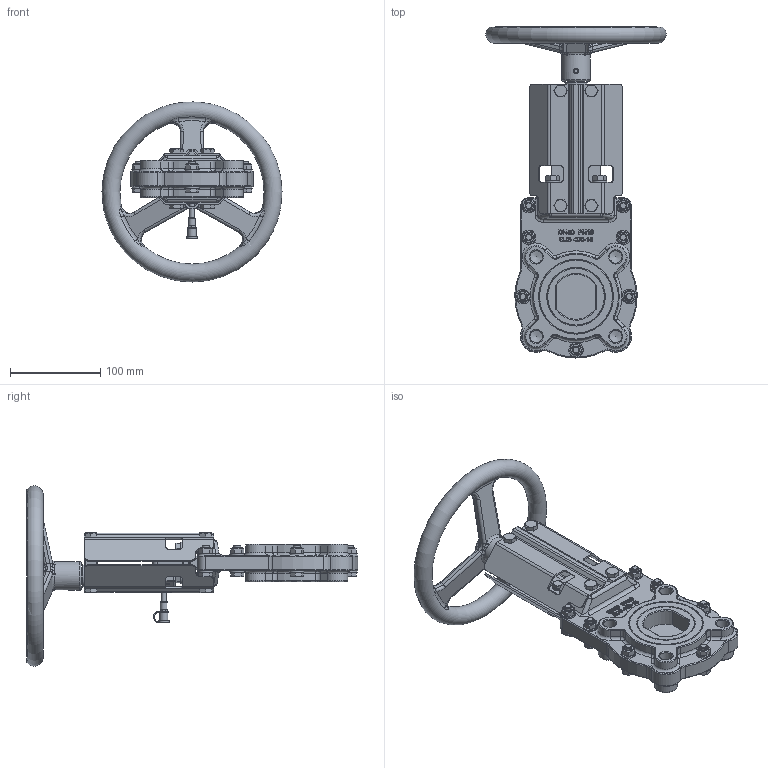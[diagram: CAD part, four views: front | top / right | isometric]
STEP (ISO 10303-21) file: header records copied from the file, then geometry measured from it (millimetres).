
FILE_DESCRIPTION(/* description */ (''),/* implementation_level */ '2;1');
FILE_NAME(/* name */ 'Non-rising stem knife gate valve with handwheel DN50.stp',/* time_stamp */ '2025-04-02T09:46:30+08:00',/* author */ (''),/* organization */ (''),/* preprocessor_version */ 'ST-DEVELOPER v15',/* originating_system */ 'SIEMENS PLM Software NX 10.0',/* authorisation */ '');
FILE_SCHEMA (('AP203_CONFIGURATION_CONTROLLED_3D_DESIGN_OF_MECHANICAL_PARTS_AND_ASSEMBLIES_MIM_LF { 1 0 10303 403 2 1 2}'));
Products named in the file (1): Admi271CEB492f1o
Bounding box: 199.95 x 368.5 x 199.95 mm (x, y, z)
Volume: 1045863.1 mm3; surface area: 244927.4 mm2
Topology: 1 solids, 17 shells, 2477 faces, 6156 edges, 3825 vertices
Faces by surface type: plane 1010, cylinder 499, bspline 358, extrusion 223, cone 192, torus 147, sphere 48
Full cylindrical faces by diameter (mm): 5.459 x2, 6 x3, 6.4 x2, 7.323 x7, 8 x19, 8.4 x18, 8.7 x2, 9 x1, 11.4 x15, 11.5 x1, 12 x2, 13.5 x1, 13.835 x8, 16 x20, 18 x1, 25 x3, 32 x1
Entity records: 79001 total; most frequent: CARTESIAN_POINT 25228, ORIENTED_EDGE 11614, DIRECTION 9419, EDGE_CURVE 5807, VERTEX_POINT 3739, AXIS2_PLACEMENT_3D 3305, EDGE_LOOP 2894, VECTOR 2809
